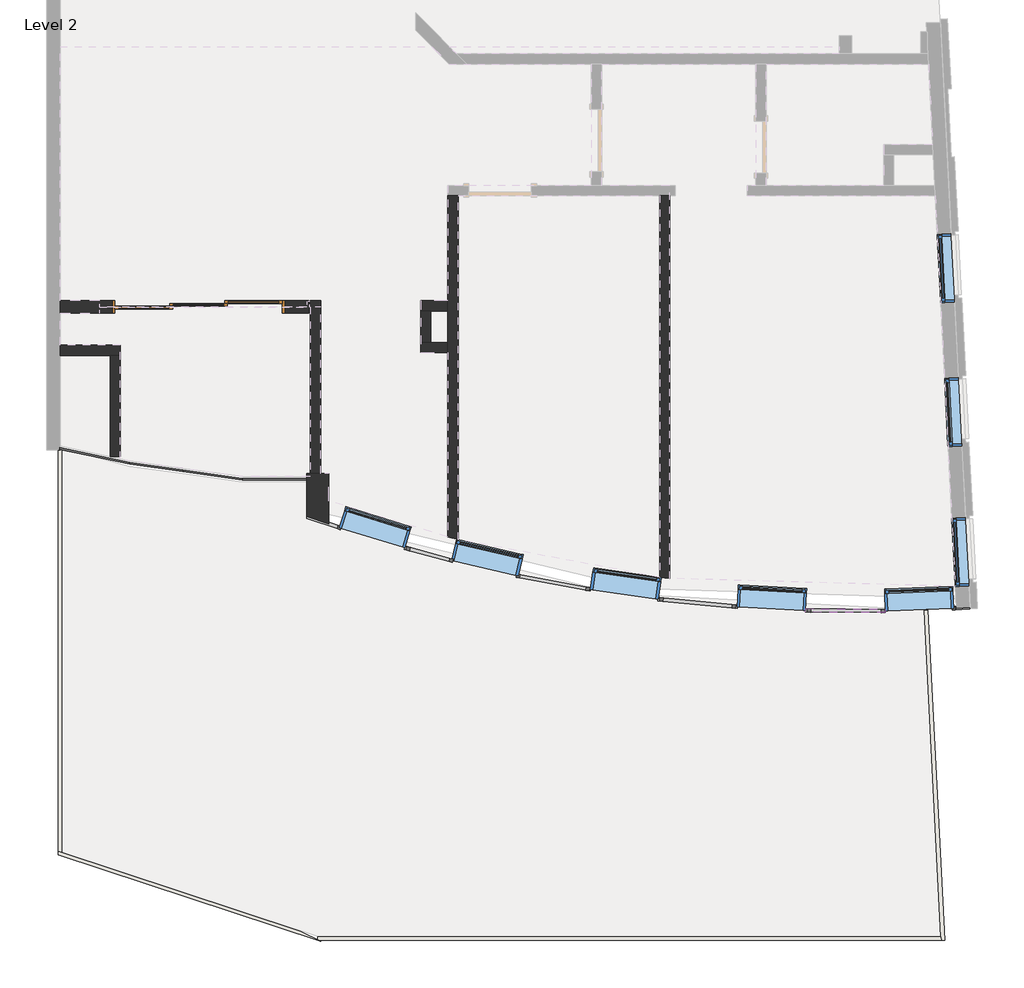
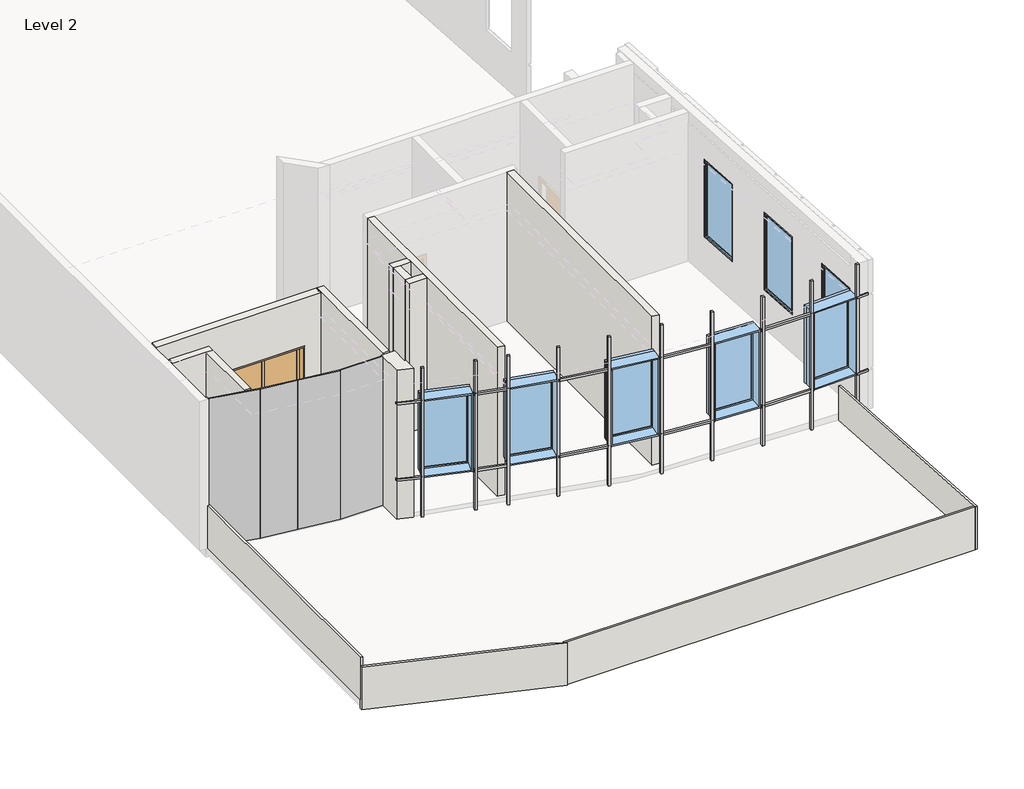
# One storey, part 1 of 5: 15 walls, 12 proxies, 8 windows, 4 plates, 1 door.
"""IFC4 building model written with IfcOpenShell, lengths in millimetres."""

from ifc_helpers import new_model, si_unit, point, frame, frame_2d, origin, place, context, project, spatial, polyline, circle_curve, trimmed, segment, composite_curve, outline, extrude, faceted_brep, transform, mapped, element, save
from ifc_brep_helpers import plane_surface, cylinder_surface, revolved_surface, advanced_brep
from components import sliding_door_3_panel_aus_type_1_135a2ec2, system_panel_glazed_6c35e85d, system_panel_glazed_aacc9fa0, system_panel_glazed_6f96cc8f, system_panel_glazed_6110bdf2, m_fixed_1000_x_1830mm_2_3397196e, m_fixed_1000_x_1830mm_2_ae03b894

model = new_model("IFC4")

# Units and contexts
model_context = context("Model", 3, world=origin())
ifc_project = project(units=[si_unit("LENGTHUNIT", "METRE", prefix="MILLI")], contexts=[model_context])

# Site, building, storey
site = spatial("IfcSite", under=ifc_project)
building = spatial("IfcBuilding", under=site)
storey = spatial("IfcBuildingStorey", under=building, Name="Level 2", Elevation=8000.0)

# Proxies
placement = place(None, origin())
element("IfcBuildingElementProxy", 1, Name="Reveal", ObjectType="Reveal", at=placement, inside=storey, context=model_context, shape_type="SweptSolid", body=[
    extrude(outline(composite_curve([segment(trimmed(circle_curve(frame_2d((11609.3245394, 10843.3737526)), 24025.0), [point((3560.252741, -11793.1690087))], [point((4041.9086857, -11958.7060275))], True, "CARTESIAN"), True, "CONTINUOUS"), segment(polyline([(4041.9086857, -11958.7060275), (4027.1474769, -12006.4887414)]), True, "CONTINUOUS"), segment(trimmed(circle_curve(frame_2d((11609.3245394, 10843.3737526)), 24075.0), [point((4027.1474769, -12006.4887414))], [point((3560.252741, -11846.2288923))], False, "CARTESIAN"), True, "CONTINUOUS"), segment(polyline([(3560.252741, -11846.2288923), (3560.252741, -11793.1690087)]), True, "CONTINUOUS")], self_intersect=False)), frame((0.0, 0.0, 8901.1018524), z_axis=(0.0, 0.0, 1.0), x_axis=(1.0, 0.0, 0.0)), (0.0, 0.0, 1.0), 50.0),
    extrude(outline(composite_curve([segment(trimmed(circle_curve(frame_2d((11609.3245394, 10843.3737526)), 24025.0), [point((13021.5895865, -13140.0816373))], [point((13258.6392504, -13124.9467139))], True, "CARTESIAN"), True, "CONTINUOUS"), segment(polyline([(13258.6392504, -13124.9467139), (13261.1814055, -13174.8900043)]), True, "CONTINUOUS"), segment(trimmed(circle_curve(frame_2d((11609.3245394, 10843.3737526)), 24075.0), [point((13261.1814055, -13174.8900043))], [point((13023.4897345, -13190.0563356))], False, "CARTESIAN"), True, "CONTINUOUS"), segment(polyline([(13023.4897345, -13190.0563356), (13021.5895865, -13140.0816373)]), True, "CONTINUOUS")], self_intersect=False)), frame((0.0, 0.0, 8901.1018524), z_axis=(0.0, 0.0, 1.0), x_axis=(1.0, 0.0, 0.0)), (0.0, 0.0, 1.0), 50.0),
    extrude(outline(composite_curve([segment(trimmed(circle_curve(frame_2d((11609.3245394, 10843.3737526)), 24025.0), [point((10855.1689112, -13169.7866868))], [point((12022.3116475, -13178.0763837))], True, "CARTESIAN"), True, "CONTINUOUS"), segment(polyline([(12022.3116475, -13178.0763837), (12024.2117955, -13228.051082)]), True, "CONTINUOUS"), segment(trimmed(circle_curve(frame_2d((11609.3245394, 10843.3737526)), 24075.0), [point((12024.2117955, -13228.051082))], [point((10852.5590945, -13219.7293528))], False, "CARTESIAN"), True, "CONTINUOUS"), segment(polyline([(10852.5590945, -13219.7293528), (10855.1689112, -13169.7866868)]), True, "CONTINUOUS")], self_intersect=False)), frame((0.0, 0.0, 8901.1018524), z_axis=(0.0, 0.0, 1.0), x_axis=(1.0, 0.0, 0.0)), (0.0, 0.0, 1.0), 50.0),
    extrude(outline(composite_curve([segment(trimmed(circle_curve(frame_2d((11609.3245394, 10843.3737526)), 24025.0), [point((8701.6675401, -13005.0256858))], [point((9856.5314794, -13117.6016343))], True, "CARTESIAN"), True, "CONTINUOUS"), segment(polyline([(9856.5314794, -13117.6016343), (9853.9216627, -13167.5443003)]), True, "CONTINUOUS"), segment(trimmed(circle_curve(frame_2d((11609.3245394, 10843.3737526)), 24075.0), [point((9853.9216627, -13167.5443003))], [point((8694.5830706, -13054.5321634))], False, "CARTESIAN"), True, "CONTINUOUS"), segment(polyline([(8694.5830706, -13054.5321634), (8701.6675401, -13005.0256858)]), True, "CONTINUOUS")], self_intersect=False)), frame((0.0, 0.0, 8901.1018524), z_axis=(0.0, 0.0, 1.0), x_axis=(1.0, 0.0, 0.0)), (0.0, 0.0, 1.0), 50.0),
    extrude(outline(composite_curve([segment(trimmed(circle_curve(frame_2d((11609.3245394, 10843.3737526)), 24025.0), [point((6655.6118444, -12665.3768636))], [point((7711.7519914, -12863.3669182))], True, "CARTESIAN"), True, "CONTINUOUS"), segment(polyline([(7711.7519914, -12863.3669182), (7704.6675219, -12912.8733958)]), True, "CONTINUOUS"), segment(trimmed(circle_curve(frame_2d((11609.3245394, 10843.3737526)), 24075.0), [point((7704.6675219, -12912.8733958))], [point((6644.2839105, -12714.0878372))], False, "CARTESIAN"), True, "CONTINUOUS"), segment(polyline([(6644.2839105, -12714.0878372), (6655.6118444, -12665.3768636)]), True, "CONTINUOUS")], self_intersect=False)), frame((0.0, 0.0, 8901.1018524), z_axis=(0.0, 0.0, 1.0), x_axis=(1.0, 0.0, 0.0)), (0.0, 0.0, 1.0), 50.0),
    extrude(outline(composite_curve([segment(trimmed(circle_curve(frame_2d((11609.3245394, 10843.3737526)), 24025.0), [point((4997.3564116, -12253.8663959))], [point((5681.6029373, -12438.8671535))], True, "CARTESIAN"), True, "CONTINUOUS"), segment(polyline([(5681.6029373, -12438.8671535), (5670.2750034, -12487.578127)]), True, "CONTINUOUS"), segment(trimmed(circle_curve(frame_2d((11609.3245394, 10843.3737526)), 24075.0), [point((5670.2750034, -12487.578127))], [point((4982.5952028, -12301.6491098))], False, "CARTESIAN"), True, "CONTINUOUS"), segment(polyline([(4982.5952028, -12301.6491098), (4997.3564116, -12253.8663959)]), True, "CONTINUOUS")], self_intersect=False)), frame((0.0, 0.0, 8901.1018524), z_axis=(0.0, 0.0, 1.0), x_axis=(1.0, 0.0, 0.0)), (0.0, 0.0, 1.0), 50.0),
])
element("IfcBuildingElementProxy", 2, Name="Reveal", ObjectType="Reveal", at=placement, inside=storey, context=model_context, shape_type="SweptSolid", body=[
    extrude(outline(composite_curve([segment(trimmed(circle_curve(frame_2d((11609.3245394, 10843.3737526)), 24025.0), [point((3560.252741, -11793.1690087))], [point((4041.9086857, -11958.7060275))], True, "CARTESIAN"), True, "CONTINUOUS"), segment(polyline([(4041.9086857, -11958.7060275), (4027.1474769, -12006.4887414)]), True, "CONTINUOUS"), segment(trimmed(circle_curve(frame_2d((11609.3245394, 10843.3737526)), 24075.0), [point((4027.1474769, -12006.4887414))], [point((3560.252741, -11846.2288923))], False, "CARTESIAN"), True, "CONTINUOUS"), segment(polyline([(3560.252741, -11846.2288923), (3560.252741, -11793.1690087)]), True, "CONTINUOUS")], self_intersect=False)), frame((0.0, 0.0, 10695.0), z_axis=(0.0, 0.0, 1.0), x_axis=(1.0, 0.0, 0.0)), (0.0, 0.0, 1.0), 50.0),
    extrude(outline(composite_curve([segment(trimmed(circle_curve(frame_2d((11609.3245394, 10843.3737526)), 24025.0), [point((13021.5895865, -13140.0816373))], [point((13258.6392504, -13124.9467139))], True, "CARTESIAN"), True, "CONTINUOUS"), segment(polyline([(13258.6392504, -13124.9467139), (13261.1814055, -13174.8900043)]), True, "CONTINUOUS"), segment(trimmed(circle_curve(frame_2d((11609.3245394, 10843.3737526)), 24075.0), [point((13261.1814055, -13174.8900043))], [point((13023.4897345, -13190.0563356))], False, "CARTESIAN"), True, "CONTINUOUS"), segment(polyline([(13023.4897345, -13190.0563356), (13021.5895865, -13140.0816373)]), True, "CONTINUOUS")], self_intersect=False)), frame((0.0, 0.0, 10695.0), z_axis=(0.0, 0.0, 1.0), x_axis=(1.0, 0.0, 0.0)), (0.0, 0.0, 1.0), 50.0),
    extrude(outline(composite_curve([segment(trimmed(circle_curve(frame_2d((11609.3245394, 10843.3737526)), 24025.0), [point((10855.1689112, -13169.7866868))], [point((12022.3116475, -13178.0763837))], True, "CARTESIAN"), True, "CONTINUOUS"), segment(polyline([(12022.3116475, -13178.0763837), (12024.2117955, -13228.051082)]), True, "CONTINUOUS"), segment(trimmed(circle_curve(frame_2d((11609.3245394, 10843.3737526)), 24075.0), [point((12024.2117955, -13228.051082))], [point((10852.5590945, -13219.7293528))], False, "CARTESIAN"), True, "CONTINUOUS"), segment(polyline([(10852.5590945, -13219.7293528), (10855.1689112, -13169.7866868)]), True, "CONTINUOUS")], self_intersect=False)), frame((0.0, 0.0, 10695.0), z_axis=(0.0, 0.0, 1.0), x_axis=(1.0, 0.0, 0.0)), (0.0, 0.0, 1.0), 50.0),
    extrude(outline(composite_curve([segment(trimmed(circle_curve(frame_2d((11609.3245394, 10843.3737526)), 24025.0), [point((8701.6675401, -13005.0256858))], [point((9856.5314794, -13117.6016343))], True, "CARTESIAN"), True, "CONTINUOUS"), segment(polyline([(9856.5314794, -13117.6016343), (9853.9216627, -13167.5443003)]), True, "CONTINUOUS"), segment(trimmed(circle_curve(frame_2d((11609.3245394, 10843.3737526)), 24075.0), [point((9853.9216627, -13167.5443003))], [point((8694.5830706, -13054.5321634))], False, "CARTESIAN"), True, "CONTINUOUS"), segment(polyline([(8694.5830706, -13054.5321634), (8701.6675401, -13005.0256858)]), True, "CONTINUOUS")], self_intersect=False)), frame((0.0, 0.0, 10695.0), z_axis=(0.0, 0.0, 1.0), x_axis=(1.0, 0.0, 0.0)), (0.0, 0.0, 1.0), 50.0),
    extrude(outline(composite_curve([segment(trimmed(circle_curve(frame_2d((11609.3245394, 10843.3737526)), 24025.0), [point((6655.6118444, -12665.3768636))], [point((7711.7519914, -12863.3669182))], True, "CARTESIAN"), True, "CONTINUOUS"), segment(polyline([(7711.7519914, -12863.3669182), (7704.6675219, -12912.8733958)]), True, "CONTINUOUS"), segment(trimmed(circle_curve(frame_2d((11609.3245394, 10843.3737526)), 24075.0), [point((7704.6675219, -12912.8733958))], [point((6644.2839105, -12714.0878372))], False, "CARTESIAN"), True, "CONTINUOUS"), segment(polyline([(6644.2839105, -12714.0878372), (6655.6118444, -12665.3768636)]), True, "CONTINUOUS")], self_intersect=False)), frame((0.0, 0.0, 10695.0), z_axis=(0.0, 0.0, 1.0), x_axis=(1.0, 0.0, 0.0)), (0.0, 0.0, 1.0), 50.0),
    extrude(outline(composite_curve([segment(trimmed(circle_curve(frame_2d((11609.3245394, 10843.3737526)), 24025.0), [point((4997.3564116, -12253.8663959))], [point((5681.6029373, -12438.8671535))], True, "CARTESIAN"), True, "CONTINUOUS"), segment(polyline([(5681.6029373, -12438.8671535), (5670.2750034, -12487.578127)]), True, "CONTINUOUS"), segment(trimmed(circle_curve(frame_2d((11609.3245394, 10843.3737526)), 24075.0), [point((5670.2750034, -12487.578127))], [point((4982.5952028, -12301.6491098))], False, "CARTESIAN"), True, "CONTINUOUS"), segment(polyline([(4982.5952028, -12301.6491098), (4997.3564116, -12253.8663959)]), True, "CONTINUOUS")], self_intersect=False)), frame((0.0, 0.0, 10695.0), z_axis=(0.0, 0.0, 1.0), x_axis=(1.0, 0.0, 0.0)), (0.0, 0.0, 1.0), 50.0),
])
element("IfcBuildingElementProxy", 3, Name="Reveal", ObjectType="Reveal", at=placement, inside=storey, context=model_context, shape_type="SweptSolid", body=[
    extrude(outline(polyline([(10930.2286023, -13172.0396044), (10928.7632845, -13222.0181283), (10878.7847607, -13220.5528105), (10880.2500785, -13170.5742866), (10930.2286023, -13172.0396044)])), frame((0.0, 0.0, 8000.0), z_axis=(0.0, 0.0, 1.0), x_axis=(1.0, 0.0, 0.0)), (0.0, 0.0, 1.0), 3500.0),
])
element("IfcBuildingElementProxy", 4, Name="Reveal", ObjectType="Reveal", at=placement, inside=storey, context=model_context, shape_type="SweptSolid", body=[
    extrude(outline(polyline([(9833.8791093, -13115.9468456), (9830.1322307, -13165.8062569), (9780.2728194, -13162.0593784), (9784.0196979, -13112.199967), (9833.8791093, -13115.9468456)])), frame((0.0, 0.0, 8000.0), z_axis=(0.0, 0.0, 1.0), x_axis=(1.0, 0.0, 0.0)), (0.0, 0.0, 1.0), 3500.0),
])
element("IfcBuildingElementProxy", 5, Name="Reveal", ObjectType="Reveal", at=placement, inside=storey, context=model_context, shape_type="SweptSolid", body=[
    extrude(outline(polyline([(8775.1009531, -13013.8772765), (8769.1508054, -13063.5219715), (8719.5061104, -13057.5718239), (8725.456258, -13007.9271288), (8775.1009531, -13013.8772765)])), frame((0.0, 0.0, 8000.0), z_axis=(0.0, 0.0, 1.0), x_axis=(1.0, 0.0, 0.0)), (0.0, 0.0, 1.0), 3500.0),
])
element("IfcBuildingElementProxy", 6, Name="Reveal", ObjectType="Reveal", at=placement, inside=storey, context=model_context, shape_type="SweptSolid", body=[
    extrude(outline(polyline([(5071.1541458, -12274.8782987), (5057.4970808, -12322.9769948), (5009.3983846, -12309.3199298), (5023.0554496, -12261.2212336), (5071.1541458, -12274.8782987)])), frame((0.0, 0.0, 8000.0), z_axis=(0.0, 0.0, 1.0), x_axis=(1.0, 0.0, 0.0)), (0.0, 0.0, 1.0), 3500.0),
])
element("IfcBuildingElementProxy", 7, Name="Reveal", ObjectType="Reveal", at=placement, inside=storey, context=model_context, shape_type="SweptSolid", body=[
    extrude(outline(polyline([(5700.3597547, -12443.6480659), (5688.0118038, -12492.0993621), (5639.5605075, -12479.7514112), (5651.9084585, -12431.3001149), (5700.3597547, -12443.6480659)])), frame((0.0, 0.0, 8000.0), z_axis=(0.0, 0.0, 1.0), x_axis=(1.0, 0.0, 0.0)), (0.0, 0.0, 1.0), 3500.0),
])
element("IfcBuildingElementProxy", 8, Name="Reveal", ObjectType="Reveal", at=placement, inside=storey, context=model_context, shape_type="SweptSolid", body=[
    extrude(outline(polyline([(6679.5658779, -12670.4249524), (6669.2553236, -12719.350329), (6620.329947, -12709.0397746), (6630.6405014, -12660.1143981), (6679.5658779, -12670.4249524)])), frame((0.0, 0.0, 8000.0), z_axis=(0.0, 0.0, 1.0), x_axis=(1.0, 0.0, 0.0)), (0.0, 0.0, 1.0), 3500.0),
])
element("IfcBuildingElementProxy", 9, Name="Reveal", ObjectType="Reveal", at=placement, inside=storey, context=model_context, shape_type="SweptSolid", body=[
    extrude(outline(polyline([(7698.414481, -12861.1834573), (7690.2239038, -12910.5080398), (7640.8993212, -12902.3174626), (7649.0898984, -12852.9928801), (7698.414481, -12861.1834573)])), frame((0.0, 0.0, 8000.0), z_axis=(0.0, 0.0, 1.0), x_axis=(1.0, 0.0, 0.0)), (0.0, 0.0, 1.0), 3500.0),
])
element("IfcBuildingElementProxy", 10, Name="Reveal", ObjectType="Reveal", at=placement, inside=storey, context=model_context, shape_type="SweptSolid", body=[
    extrude(outline(polyline([(12013.3333991, -13178.2420724), (12014.1221857, -13228.2358501), (11964.1284079, -13229.0246368), (11963.3396213, -13179.030859), (12013.3333991, -13178.2420724)])), frame((0.0, 0.0, 8000.0), z_axis=(0.0, 0.0, 1.0), x_axis=(1.0, 0.0, 0.0)), (0.0, 0.0, 1.0), 3500.0),
])
element("IfcBuildingElementProxy", 11, Name="Reveal", ObjectType="Reveal", at=placement, inside=storey, context=model_context, shape_type="SweptSolid", body=[
    extrude(outline(polyline([(13046.0274649, -13138.6431498), (13048.9655422, -13188.5567521), (12999.0519398, -13191.4948294), (12996.1138625, -13141.581227), (13046.0274649, -13138.6431498)])), frame((0.0, 0.0, 8000.0), z_axis=(0.0, 0.0, 1.0), x_axis=(1.0, 0.0, 0.0)), (0.0, 0.0, 1.0), 3500.0),
])
element("IfcBuildingElementProxy", 12, Name="Reveal", ObjectType="Reveal", at=placement, inside=storey, context=model_context, shape_type="SweptSolid", body=[
    extrude(outline(polyline([(4066.129757, -11966.7437937), (4050.3817395, -12014.1990352), (4002.926498, -11998.4510177), (4018.6745155, -11950.9957762), (4066.129757, -11966.7437937)])), frame((0.0, 0.0, 8000.0), z_axis=(0.0, 0.0, 1.0), x_axis=(1.0, 0.0, 0.0)), (0.0, 0.0, 1.0), 3500.0),
])

# Door
sliding_door_3_panel_aus_type_1_shape = sliding_door_3_panel_aus_type_1_135a2ec2(model_context)
element("IfcDoor", 13, ObjectType="Sliding Door - 3 Panel (AUS) : Type 1", at=placement, inside=storey, context=model_context, shape_type="MappedRepresentation", body=[
    mapped(sliding_door_3_panel_aus_type_1_shape, transform((2060.7158708, -8752.2362629, 8000.0), x_axis=(-1.0, 0.0, 0.0), y_axis=(0.0, -1.0, 0.0), z_axis=(0.0, 0.0, 1.0))),
])

# Plates
system_panel_glazed_shape = system_panel_glazed_6c35e85d(model_context)
element("IfcPlate", 14, ObjectType="System Panel : Glazed", at=placement, inside=storey, context=model_context, shape_type="MappedRepresentation", body=[
    mapped(system_panel_glazed_shape, transform((3090.252741, -11236.9456492, 8000.0), x_axis=(-1.0, 0.0, 0.0), y_axis=(0.0, -1.0, 0.0), z_axis=(0.0, 0.0, 1.0))),
])
system_panel_glazed_2_shape = system_panel_glazed_aacc9fa0(model_context)
element("IfcPlate", 15, ObjectType="System Panel : Glazed", at=placement, inside=storey, context=model_context, shape_type="MappedRepresentation", body=[
    mapped(system_panel_glazed_2_shape, transform((2183.3563773, -11175.5438696, 8000.0), x_axis=(-0.9902680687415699, 0.1391731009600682, 0.0), y_axis=(-0.1391731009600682, -0.9902680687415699, 0.0), z_axis=(0.0, 0.0, 1.0))),
])
system_panel_glazed_3_shape = system_panel_glazed_6f96cc8f(model_context)
element("IfcPlate", 16, ObjectType="System Panel : Glazed", at=placement, inside=storey, context=model_context, shape_type="MappedRepresentation", body=[
    mapped(system_panel_glazed_3_shape, transform((1360.2554668, -11059.8645806, 8000.0), x_axis=(-0.9902680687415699, 0.13917310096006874, 0.0), y_axis=(-0.13917310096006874, -0.9902680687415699, 0.0), z_axis=(0.0, 0.0, 1.0))),
])
system_panel_glazed_4_shape = system_panel_glazed_6110bdf2(model_context)
element("IfcPlate", 17, ObjectType="System Panel : Glazed", at=placement, inside=storey, context=model_context, shape_type="MappedRepresentation", body=[
    mapped(system_panel_glazed_4_shape, transform((462.0043948, -10896.7482224, 8000.0), x_axis=(-0.9781476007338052, 0.20791169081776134, 0.0), y_axis=(-0.20791169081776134, -0.9781476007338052, 0.0), z_axis=(0.0, 0.0, 1.0))),
])

# Walls
element("IfcWall", 18, ObjectType="Generic - 20cm-gypsum-kamposite", at=placement, inside=storey, context=model_context, shape_type="AdvancedBrep", body=[
    advanced_brep(
    [(3880.252741, -11930.821055, 8000.0), (3880.252741, -11592.6318887, 8000.0), (3880.252741, -11189.3160932, 8000.0), (3880.252741, -11189.3160932, 11259.0), (3880.252741, -11592.6318887, 11259.0), (3880.252741, -11624.3597587, 11259.0), (3880.252741, -11624.3597587, 11500.0), (3880.252741, -11930.821055, 11500.0), (3880.252741, -11930.821055, 10745.0), (3880.252741, -11904.4189785, 10745.0), (3880.252741, -11904.4189785, 10695.0), (3880.252741, -11930.821055, 10695.0), (3880.252741, -11930.821055, 8951.1018524), (3880.252741, -11904.4189785, 8951.1018524), (3880.252741, -11904.4189785, 8901.1018524), (3880.252741, -11930.821055, 8901.1018524), (3560.252741, -11189.3160932, 8000.0), (3560.252741, -11819.7006899, 8000.0), (3560.252741, -11819.7006899, 8901.1018524), (3560.252741, -11793.1690087, 8901.1018524), (3560.252741, -11793.1690087, 8951.1018524), (3560.252741, -11819.7006899, 8951.1018524), (3560.252741, -11819.7006899, 10695.0), (3560.252741, -11793.1690087, 10695.0), (3560.252741, -11793.1690087, 10745.0), (3560.252741, -11819.7006899, 10745.0), (3560.252741, -11819.7006899, 11500.0), (3560.252741, -11236.9456492, 11500.0), (3560.252741, -11236.9456492, 11259.0), (3560.252741, -11189.3160932, 11259.0), (3850.252741, -11614.0171205, 11500.0), (3850.252741, -11236.9456492, 11500.0), (3850.252741, -11236.9456492, 11259.0), (3850.252741, -11614.0171205, 11259.0)],
    [
        (0, 1),
        (1, 2),
        (2, 3),
        (3, 4),
        (4, 5),
        (5, 6),
        (6, 7),
        (7, 8),
        (8, 9),
        (9, 10),
        (10, 11),
        (11, 12),
        (12, 13),
        (13, 14),
        (14, 15),
        (15, 0),
        (16, 17),
        (17, 18),
        (18, 19),
        (19, 20),
        (20, 21),
        (21, 22),
        (22, 23),
        (23, 24),
        (24, 25),
        (25, 26),
        (26, 27),
        (27, 28),
        (28, 29),
        (29, 16),
        (0, 17, circle_curve(frame((11609.3245394, 10843.3737526, 8000.0), z_axis=(0.0, 0.0, -1.0), x_axis=(-0.33468074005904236, -0.942331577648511, 0.0)), 24050.0)),
        (16, 2),
        (29, 3),
        (26, 7, circle_curve(frame((11609.3245394, 10843.3737526, 11500.0), z_axis=(0.0, 0.0, 1.0), x_axis=(-0.33468074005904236, -0.942331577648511, 0.0)), 24050.0)),
        (6, 30, circle_curve(frame((11609.3245394, 10843.3737526, 11500.0), z_axis=(0.0, 0.0, -1.0), x_axis=(1.0, 0.0, 0.0)), 23760.0)),
        (30, 31),
        (31, 27),
        (25, 8, circle_curve(frame((11609.3245394, 10843.3737526, 10745.0), z_axis=(0.0, 0.0, 1.0), x_axis=(-0.33468074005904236, -0.942331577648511, 0.0)), 24050.0)),
        (15, 18, circle_curve(frame((11609.3245394, 10843.3737526, 8901.1018524), z_axis=(0.0, 0.0, -1.0), x_axis=(-0.33468074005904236, -0.942331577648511, 0.0)), 24050.0)),
        (21, 12, circle_curve(frame((11609.3245394, 10843.3737526, 8951.1018524), z_axis=(0.0, 0.0, 1.0), x_axis=(-0.33468074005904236, -0.942331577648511, 0.0)), 24050.0)),
        (11, 22, circle_curve(frame((11609.3245394, 10843.3737526, 10695.0), z_axis=(0.0, 0.0, -1.0), x_axis=(-0.33468074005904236, -0.942331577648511, 0.0)), 24050.0)),
        (20, 13, circle_curve(frame((11609.3245394, 10843.3737526, 8951.1018524), z_axis=(0.0, 0.0, 1.0), x_axis=(-0.3149603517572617, -0.9491048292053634, 0.0)), 24025.0)),
        (14, 19, circle_curve(frame((11609.3245394, 10843.3737526, 8901.1018524), z_axis=(0.0, 0.0, -1.0), x_axis=(-0.3149603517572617, -0.9491048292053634, 0.0)), 24025.0)),
        (24, 9, circle_curve(frame((11609.3245394, 10843.3737526, 10745.0), z_axis=(0.0, 0.0, 1.0), x_axis=(-0.3149603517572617, -0.9491048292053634, 0.0)), 24025.0)),
        (10, 23, circle_curve(frame((11609.3245394, 10843.3737526, 10695.0), z_axis=(0.0, 0.0, -1.0), x_axis=(-0.3149603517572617, -0.9491048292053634, 0.0)), 24025.0)),
        (32, 33),
        (33, 5, circle_curve(frame((11609.3245394, 10843.3737526, 11259.0), z_axis=(0.0, 0.0, 1.0), x_axis=(1.0, 0.0, 0.0)), 23760.0)),
        (28, 32),
        (33, 30),
        (32, 31),
    ],
    [
        plane_surface(frame((3880.252741, -11283.4147586, 8000.0), z_axis=(1.0, 0.0, 0.0), x_axis=(0.0, 1.0, 0.0))),
        plane_surface(frame((3560.252741, -11283.4147586, 8000.0), z_axis=(-1.0, 0.0, 0.0), x_axis=(0.0, -1.0, 0.0))),
        plane_surface(frame((3880.252741, -11706.4521039, 8000.0), z_axis=(0.0, 0.0, -1.0), x_axis=(-1.0, 0.0, 0.0))),
        plane_surface(frame((3880.252741, -11189.3160932, 8000.0), z_axis=(0.0, 1.0, 0.0), x_axis=(-1.0, 0.0, 0.0))),
        plane_surface(frame((3880.252741, -11189.3160932, 11500.0), z_axis=(0.0, 0.0, 1.0), x_axis=(-1.0, 0.0, 0.0))),
        cylinder_surface(frame((11609.3245394, 10843.3737526, 8000.0), z_axis=(0.0, 0.0, 1.0), x_axis=(-0.33468074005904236, -0.942331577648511, 0.0)), 24050.0),
        plane_surface(frame((11609.3245394, 10843.3737526, 8951.1018524), z_axis=(0.0, 0.0, -1.0), x_axis=(-0.3149603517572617, -0.9491048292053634, 0.0))),
        plane_surface(frame((11609.3245394, 10843.3737526, 8901.1018524), z_axis=(0.0, 0.0, 1.0), x_axis=(-0.3149603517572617, -0.9491048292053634, 0.0))),
        cylinder_surface(frame((11609.3245394, 10843.3737526, 8926.1018524), z_axis=(0.0, 0.0, -1.0), x_axis=(-0.3149603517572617, -0.9491048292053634, 0.0)), 24025.0),
        plane_surface(frame((11609.3245394, 10843.3737526, 10745.0), z_axis=(0.0, 0.0, -1.0), x_axis=(-0.3149603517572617, -0.9491048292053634, 0.0))),
        plane_surface(frame((11609.3245394, 10843.3737526, 10695.0), z_axis=(0.0, 0.0, 1.0), x_axis=(-0.3149603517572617, -0.9491048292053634, 0.0))),
        cylinder_surface(frame((11609.3245394, 10843.3737526, 10720.0), z_axis=(0.0, 0.0, -1.0), x_axis=(-0.3149603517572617, -0.9491048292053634, 0.0)), 24025.0),
        plane_surface(frame((-80.0421304, 14944.8648867, 11259.0), z_axis=(0.0, 0.0, 1.0), x_axis=(0.9323005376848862, -0.36168454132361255, 0.0))),
        revolved_surface(polyline([(35369.3245394, 10843.3737526, 11259.0), (35369.3245394, 10843.3737526, 11500.0)]), (11609.3245394, 10843.3737526, 11500.0), (0.0, 0.0, -1.0)),
        plane_surface(frame((3850.252741, -11614.0171205, 11259.0), z_axis=(1.0, 0.0, 0.0), x_axis=(0.0, 0.0, 1.0))),
        plane_surface(frame((3850.252741, -11236.9456492, 11259.0), z_axis=(0.0, 1.0, 0.0), x_axis=(0.0, 0.0, 1.0))),
    ],
    [
        (0, [[1, 2, 3, 4, 5, 6, 7, 8, 9, 10, 11, 12, 13, 14, 15, 16]]),
        (1, [[17, 18, 19, 20, 21, 22, 23, 24, 25, 26, 27, 28, 29, 30]]),
        (2, [[-2, -1, 31, -17, 32]]),
        (3, [[-32, -30, 33, -3]]),
        (4, [[34, -7, 35, 36, 37, -27]]),
        (5, [[-34, -26, 38, -8]]),
        (5, [[-31, -16, 39, -18]]),
        (5, [[40, -12, 41, -22]]),
        (6, [[42, -13, -40, -21]]),
        (7, [[43, -19, -39, -15]]),
        (8, [[-42, -20, -43, -14]]),
        (9, [[44, -9, -38, -25]]),
        (10, [[45, -23, -41, -11]]),
        (11, [[-44, -24, -45, -10]]),
        (12, [[46, 47, -5, -4, -33, -29, 48]]),
        (13, [[49, -35, -6, -47]]),
        (14, [[-46, 50, -36, -49]]),
        (15, [[-50, -48, -28, -37]]),
    ],
),
])
element("IfcWall", 19, ObjectType="Generic - 15cm-gypsu-2boith", at=placement, inside=storey, context=model_context, shape_type="SweptSolid", body=[
    extrude(outline(composite_curve([segment(polyline([(8720.2907737, -12710.1054788), (8720.2907737, -7123.7981953), (8870.2907737, -7123.7981953), (8870.2907737, -12728.0198004)]), True, "CONTINUOUS"), segment(trimmed(circle_curve(frame_2d((11609.3245394, 10843.3737526)), 23730.0), [point((8870.2907737, -12728.0198004))], [point((8720.2907737, -12710.1054788))], False, "CARTESIAN"), True, "CONTINUOUS")], self_intersect=False)), frame((0.0, 0.0, 8000.0), z_axis=(0.0, 0.0, 1.0), x_axis=(1.0, 0.0, 0.0)), (0.0, 0.0, 1.0), 3500.0),
])
element("IfcWall", 20, ObjectType="Generic - 15cm-gypsu-2boith", at=placement, inside=storey, context=model_context, shape_type="AdvancedBrep", body=[
    advanced_brep(
    [(5620.2907737, -7123.7981953, 8000.0), (5620.2907737, -8662.29082, 8000.0), (5620.2907737, -8812.29082, 8000.0), (5620.2907737, -9272.4272222, 8000.0), (5620.2907737, -9422.4272222, 8000.0), (5620.2907737, -12118.4287584, 8000.0), (5620.2907737, -12118.4287584, 11500.0), (5620.2907737, -9422.4272222, 11500.0), (5620.2907737, -9272.4272222, 11500.0), (5620.2907737, -8812.29082, 11500.0), (5620.2907737, -8662.29082, 11500.0), (5620.2907737, -7123.7981953, 11500.0), (5770.2907737, -7123.7981953, 8000.0), (5770.2907737, -7123.7981953, 11500.0), (5770.2907737, -12157.0302587, 11500.0), (5770.2907737, -12157.0302587, 8000.0)],
    [
        (0, 1),
        (1, 2),
        (2, 3),
        (3, 4),
        (4, 5),
        (5, 6),
        (6, 7),
        (7, 8),
        (8, 9),
        (9, 10),
        (10, 11),
        (11, 0),
        (12, 13),
        (13, 14),
        (14, 15),
        (15, 12),
        (0, 12),
        (15, 5, circle_curve(frame((11609.3245394, 10843.3737526, 8000.0), z_axis=(0.0, 0.0, -1.0), x_axis=(-0.33468074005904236, -0.942331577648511, 0.0)), 23730.0)),
        (6, 14, circle_curve(frame((11609.3245394, 10843.3737526, 11500.0), z_axis=(0.0, 0.0, 1.0), x_axis=(-0.33468074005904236, -0.942331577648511, 0.0)), 23730.0)),
        (13, 11),
    ],
    [
        plane_surface(frame((5620.2907737, -7123.7981953, 8000.0), z_axis=(-1.0, 0.0, 0.0), x_axis=(0.0, -1.0, 0.0))),
        plane_surface(frame((5770.2907737, -7123.7981953, 8000.0), z_axis=(1.0, 0.0, 0.0), x_axis=(0.0, 1.0, 0.0))),
        plane_surface(frame((5620.2907737, -7048.7981953, 8000.0), z_axis=(0.0, 0.0, -1.0), x_axis=(1.0, 0.0, 0.0))),
        plane_surface(frame((5620.2907737, -12303.036436, 11500.0), z_axis=(0.0, 0.0, 1.0), x_axis=(1.0, 0.0, 0.0))),
        cylinder_surface(frame((11609.3245394, 10843.3737526, 8000.0), z_axis=(0.0, 0.0, -1.0), x_axis=(-0.33468074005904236, -0.942331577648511, 0.0)), 23730.0),
        plane_surface(frame((8730.3395953, -7123.7981953, 8000.0), z_axis=(0.0, 1.0, 0.0), x_axis=(1.0, 0.0, 0.0))),
    ],
    [
        (0, [[1, 2, 3, 4, 5, 6, 7, 8, 9, 10, 11, 12]]),
        (1, [[13, 14, 15, 16]]),
        (2, [[-5, -4, -3, -2, -1, 17, -16, 18]]),
        (3, [[-11, -10, -9, -8, -7, 19, -14, 20]]),
        (4, [[-6, -18, -15, -19]]),
        (5, [[-12, -20, -13, -17]]),
    ],
),
])
element("IfcWall", 21, ObjectType="Generic - 15cm-gypsu-2boith", at=placement, inside=storey, context=model_context, shape_type="Brep", body=[
    faceted_brep([(5620.2907737, -9272.4272222, 8000.0), (5373.5699518, -9272.4272222, 8000.0), (5223.5699518, -9272.4272222, 8000.0), (5223.5699518, -9272.4272222, 11500.0), (5373.5699518, -9272.4272222, 11500.0), (5620.2907737, -9272.4272222, 11500.0), (5620.2907737, -9422.4272222, 8000.0), (5620.2907737, -9422.4272222, 11500.0), (5223.5699518, -9422.4272222, 11500.0), (5223.5699518, -9422.4272222, 8000.0)], [[[0, 1, 2, 3, 4, 5]], [[6, 7, 8, 9]], [[2, 1, 0, 6, 9]], [[5, 4, 3, 8, 7]], [[0, 5, 7, 6]], [[3, 2, 9, 8]]]),
])
element("IfcWall", 22, ObjectType="Generic - 15cm-gypsu-2boith", at=placement, inside=storey, context=model_context, shape_type="SweptSolid", body=[
    extrude(outline(polyline([(5373.5699518, -8812.29082), (5373.5699518, -9272.4272222), (5223.5699518, -9272.4272222), (5223.5699518, -8812.29082), (5373.5699518, -8812.29082)])), frame((0.0, 0.0, 8000.0), z_axis=(0.0, 0.0, 1.0), x_axis=(1.0, 0.0, 0.0)), (0.0, 0.0, 1.0), 3500.0),
])
element("IfcWall", 23, ObjectType="Generic - 15cm-gypsu-2boith", at=placement, inside=storey, context=model_context, shape_type="Brep", body=[
    faceted_brep([(5223.5699518, -8812.29082, 8000.0), (5373.5699518, -8812.29082, 8000.0), (5620.2907737, -8812.29082, 8000.0), (5620.2907737, -8812.29082, 11500.0), (5373.5699518, -8812.29082, 11500.0), (5223.5699518, -8812.29082, 11500.0), (5223.5699518, -8662.29082, 8000.0), (5223.5699518, -8662.29082, 11500.0), (5620.2907737, -8662.29082, 11500.0), (5620.2907737, -8662.29082, 8000.0)], [[[0, 1, 2, 3, 4, 5]], [[6, 7, 8, 9]], [[2, 1, 0, 6, 9]], [[5, 4, 3, 8, 7]], [[0, 5, 7, 6]], [[3, 2, 9, 8]]]),
])
element("IfcWall", 24, ObjectType="Generic - 18cm-gypsu-2boith 2", at=placement, inside=storey, context=model_context, shape_type="SweptSolid", body=[
    extrude(outline(polyline([(11500.0, 3589.9578696), (11500.0, -50.0421304), (8000.0, -50.0421304), (8000.0, 709.9578696), (10383.0, 709.9578696), (10383.0, 3239.9578696), (8000.0, 3239.9578696), (8000.0, 3589.9578696), (11500.0, 3589.9578696)])), frame((0.0, -8842.2362629, 0.0), z_axis=(0.0, 1.0, 0.0), x_axis=(0.0, 0.0, 1.0)), (0.0, 0.0, 1.0), 180.0),
])
element("IfcWall", 25, ObjectType="Generic - 10cm-gypsu-2boith", at=placement, inside=storey, context=model_context, shape_type="SweptSolid", body=[
    extrude(outline(polyline([(3557.6788606, -8673.6141586), (3600.5670169, -8673.6141586), (3600.5670169, -8773.6141586), (3557.6788606, -8773.6141586), (3557.6788606, -8673.6141586)])), frame((0.0, 0.0, 8000.0), z_axis=(0.0, 0.0, 1.0), x_axis=(1.0, 0.0, 0.0)), (0.0, 0.0, 1.0), 3500.0),
])
element("IfcWall", 26, ObjectType="Generic - 15cm-gypsu-2boith", at=placement, inside=storey, context=model_context, shape_type="Brep", body=[
    faceted_brep([(829.9393362, -9312.1185157, 8000.0), (-50.0421304, -9312.1185157, 8000.0), (-50.0421304, -9312.1185157, 11500.0), (829.9393362, -9312.1185157, 11500.0), (829.9393362, -9462.1185157, 8000.0), (829.9393362, -9462.1185157, 11500.0), (679.9393362, -9462.1185157, 11500.0), (-50.0421304, -9462.1185157, 11500.0), (-50.0421304, -9462.1185157, 8000.0), (679.9393362, -9462.1185157, 8000.0)], [[[0, 1, 2, 3]], [[4, 5, 6, 7, 8, 9]], [[1, 0, 4, 9, 8]], [[3, 2, 7, 6, 5]], [[2, 1, 8, 7]], [[0, 3, 5, 4]]]),
])
element("IfcWall", 27, ObjectType="Generic - 15cm-gypsu-2boith", at=placement, inside=storey, context=model_context, shape_type="SweptSolid", body=[
    extrude(outline(polyline([(679.9393362, -10941.9462756), (679.9393362, -9462.1185157), (829.9393362, -9462.1185157), (829.9393362, -10941.9462756), (679.9393362, -10941.9462756)])), frame((0.0, 0.0, 8000.0), z_axis=(0.0, 0.0, 1.0), x_axis=(1.0, 0.0, 0.0)), (0.0, 0.0, 1.0), 3500.0),
])
element("IfcWall", 28, ObjectType="kamposite5cm", at=placement, inside=storey, context=model_context, shape_type="Brep", body=[
    faceted_brep([(12593.1016699, -13193.6929, 7800.0), (12836.5805594, -17975.5937279, 7800.0), (12839.1263973, -18025.5937279, 7800.0), (12839.1263973, -18025.5937279, 8800.0), (12836.5805594, -17975.5937279, 8800.0), (12593.1016699, -13193.6929, 8800.0), (12643.0369828, -13191.1503558, 7800.0), (12643.0369828, -13191.1503558, 8800.0), (12889.1911683, -18025.5937279, 8800.0), (12889.1911683, -18025.5937279, 7800.0)], [[[0, 1, 2, 3, 4, 5]], [[6, 7, 8, 9]], [[2, 1, 0, 6, 9]], [[5, 4, 3, 8, 7]], [[0, 5, 7, 6]], [[3, 2, 9, 8]]]),
])
element("IfcWall", 29, ObjectType="kamposite5cm", at=placement, inside=storey, context=model_context, shape_type="SweptSolid", body=[
    extrude(outline(polyline([(3715.1070409, -17975.5937279), (12836.5805594, -17975.5937279), (12839.1263973, -18025.5937279), (3715.1070409, -18025.5937279), (3715.1070409, -17975.5937279)])), frame((0.0, 0.0, 7800.0), z_axis=(0.0, 0.0, 1.0), x_axis=(1.0, 0.0, 0.0)), (0.0, 0.0, 1.0), 1000.0),
])
element("IfcWall", 30, ObjectType="kamposite5cm", at=placement, inside=storey, context=model_context, shape_type="Brep", body=[
    faceted_brep([(3463.8411874, -17890.1949362, 8800.0), (3463.8411874, -17890.1949362, 7800.0), (-80.0000039, -16722.9989992, 7800.0), (-80.0000039, -16722.9989992, 8000.0), (-80.0000039, -16722.9989992, 8800.0), (3759.4392407, -18040.1949362, 7800.0), (3759.4392407, -18040.1949362, 8800.0), (-80.0000039, -16775.6411245, 8800.0), (-80.0000039, -16775.6411245, 7800.0)], [[[0, 1, 2, 3, 4]], [[5, 6, 7, 8]], [[2, 1, 5, 8]], [[0, 4, 7, 6]], [[4, 3, 2, 8, 7]], [[0, 6, 5, 1]]]),
])
element("IfcWall", 31, ObjectType="kamposite5cm", at=placement, inside=storey, context=model_context, shape_type="Brep", body=[
    faceted_brep([(-30.0000039, -16739.4669485, 8000.0), (-30.0000039, -10845.40247, 8000.0), (-30.0000039, -10845.40247, 9000.0), (-30.0000039, -16739.4669485, 9000.0), (-80.0000039, -16722.9989992, 8000.0), (-80.0000039, -16722.9989992, 8800.0), (-80.0000039, -16722.9989992, 9000.0), (-80.0000039, -10845.40247, 9000.0), (-80.0000039, -10845.40247, 8000.0), (-50.0421304, -10845.40247, 8000.0)], [[[0, 1, 2, 3]], [[4, 5, 6, 7, 8]], [[1, 0, 4, 8, 9]], [[2, 1, 9, 8, 7]], [[3, 2, 7, 6]], [[0, 3, 6, 5, 4]]]),
])
element("IfcWall", 32, ObjectType="Generic - 15cm-granit 2", at=placement, inside=storey, context=model_context, shape_type="SweptSolid", body=[
    extrude(outline(polyline([(3610.252741, -11190.835654), (3610.252741, -8662.29082), (3760.252741, -8662.29082), (3760.252741, -11190.835654), (3610.252741, -11190.835654)])), frame((0.0, 0.0, 8000.0), z_axis=(0.0, 0.0, 1.0), x_axis=(1.0, 0.0, 0.0)), (0.0, 0.0, 1.0), 3500.0),
])

# Windows
m_fixed_1000_x_1830mm_2_shape = m_fixed_1000_x_1830mm_2_3397196e(model_context)
element("IfcWindow", 33, ObjectType="M_Fixed : 1000 x 1830mm 2", at=placement, inside=storey, context=model_context, shape_type="MappedRepresentation", body=[
    mapped(m_fixed_1000_x_1830mm_2_shape, transform((13131.5568795, -12339.6994395, 8595.0), x_axis=(-0.05083502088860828, 0.9987070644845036, 0.0), y_axis=(-0.9987070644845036, -0.05083502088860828, 0.0), z_axis=(0.0, 0.0, 1.0))),
])
element("IfcWindow", 34, ObjectType="M_Fixed : 1000 x 1830mm 2", at=placement, inside=storey, context=model_context, shape_type="MappedRepresentation", body=[
    mapped(m_fixed_1000_x_1830mm_2_shape, transform((13027.3450867, -10292.3499573, 8595.0), x_axis=(-0.05083502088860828, 0.9987070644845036, 0.0), y_axis=(-0.9987070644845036, -0.05083502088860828, 0.0), z_axis=(0.0, 0.0, 1.0))),
])
element("IfcWindow", 35, ObjectType="M_Fixed : 1000 x 1830mm 2", at=placement, inside=storey, context=model_context, shape_type="MappedRepresentation", body=[
    mapped(m_fixed_1000_x_1830mm_2_shape, transform((12920.0831926, -8185.0780513, 8595.0), x_axis=(-0.05083502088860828, 0.9987070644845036, 0.0), y_axis=(-0.9987070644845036, -0.05083502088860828, 0.0), z_axis=(0.0, 0.0, 1.0))),
])
m_fixed_1000_x_1830mm_2_2_shape = m_fixed_1000_x_1830mm_2_ae03b894(model_context)
element("IfcWindow", 36, ObjectType="M_Fixed : 1000 x 1830mm 2", at=placement, inside=storey, context=model_context, shape_type="MappedRepresentation", body=[
    mapped(m_fixed_1000_x_1830mm_2_2_shape, transform((12517.3154635, -13037.1725082, 8595.0), x_axis=(0.9992779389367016, 0.037994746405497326, 0.0), y_axis=(-0.037994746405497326, 0.9992779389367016, 0.0), z_axis=(0.0, 0.0, 1.0))),
])
element("IfcWindow", 37, ObjectType="M_Fixed : 1000 x 1830mm 2", at=placement, inside=storey, context=model_context, shape_type="MappedRepresentation", body=[
    mapped(m_fixed_1000_x_1830mm_2_2_shape, transform((10362.2164894, -13021.8657967, 8595.0), x_axis=(0.998637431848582, -0.05218505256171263, 0.0), y_axis=(0.05218505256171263, 0.998637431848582, 0.0), z_axis=(0.0, 0.0, 1.0))),
])
element("IfcWindow", 38, ObjectType="M_Fixed : 1000 x 1830mm 2", at=placement, inside=storey, context=model_context, shape_type="MappedRepresentation", body=[
    mapped(m_fixed_1000_x_1830mm_2_2_shape, transform((8223.991369, -12813.4319607, 8595.0), x_axis=(0.989915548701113, -0.14165876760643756, 0.0), y_axis=(0.14165876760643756, 0.989915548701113, 0.0), z_axis=(0.0, 0.0, 1.0))),
])
element("IfcWindow", 39, ObjectType="M_Fixed : 1000 x 1830mm 2", at=placement, inside=storey, context=model_context, shape_type="MappedRepresentation", body=[
    mapped(m_fixed_1000_x_1830mm_2_2_shape, transform((6196.24035, -12433.2981915, 8595.0), x_axis=(0.9740089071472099, -0.22650971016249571, 0.0), y_axis=(0.22650971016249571, 0.9740089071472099, 0.0), z_axis=(0.0, 0.0, 1.0))),
])
element("IfcWindow", 40, ObjectType="M_Fixed : 1000 x 1830mm 2", at=placement, inside=storey, context=model_context, shape_type="MappedRepresentation", body=[
    mapped(m_fixed_1000_x_1830mm_2_2_shape, transform((4555.6405167, -11989.7267583, 8595.0), x_axis=(0.9554477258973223, -0.2951603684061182, 0.0), y_axis=(0.2951603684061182, 0.9554477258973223, 0.0), z_axis=(0.0, 0.0, 1.0))),
])

save(model, "model.ifc")
